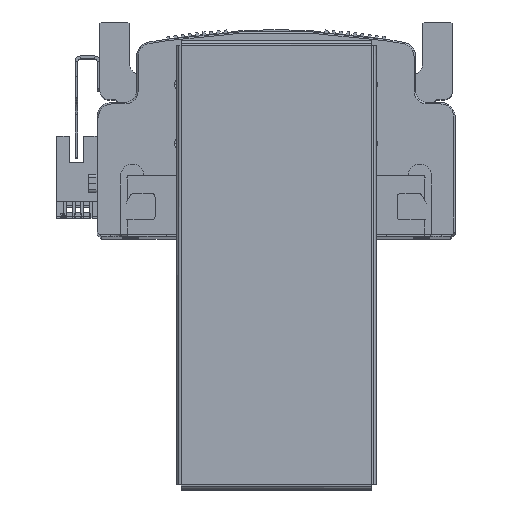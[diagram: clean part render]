
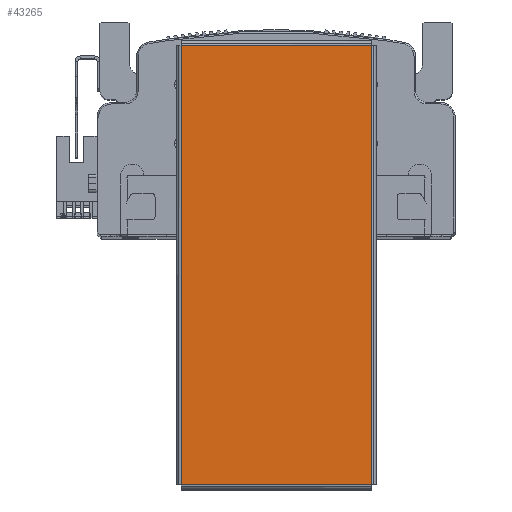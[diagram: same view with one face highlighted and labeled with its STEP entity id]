
A CAD part, top view. The second image highlights one B-rep face of the part: STEP entity #43265.
In plain terms, the highlighted planar face has unit normal (0, 0, 1) as drawn and (0, 0, -1) by its records, which use the part's own axes.
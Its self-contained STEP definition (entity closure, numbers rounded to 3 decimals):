
#10471 = LINE ( 'NONE', #75384, #10487 ) ;
#10487 = VECTOR ( 'NONE', #75417, 1000. ) ;
#10561 = LINE ( 'NONE', #75590, #10621 ) ;
#10621 = VECTOR ( 'NONE', #75624, 1000. ) ;
#11942 = VECTOR ( 'NONE', #75287, 1000. ) ;
#11958 = LINE ( 'NONE', #75367, #11942 ) ;
#11978 = LINE ( 'NONE', #75311, #11992 ) ;
#11992 = VECTOR ( 'NONE', #75313, 1000. ) ;
#17429 = VERTEX_POINT ( 'NONE', #58677 ) ;
#17460 = VERTEX_POINT ( 'NONE', #58723 ) ;
#17485 = VERTEX_POINT ( 'NONE', #58783 ) ;
#17493 = VERTEX_POINT ( 'NONE', #58750 ) ;
#32809 = EDGE_CURVE ( 'NONE', #17493, #17485, #11978, .T. ) ;
#32814 = EDGE_CURVE ( 'NONE', #17460, #17429, #11958, .T. ) ;
#32828 = EDGE_CURVE ( 'NONE', #17429, #17493, #10471, .T. ) ;
#32860 = EDGE_CURVE ( 'NONE', #17485, #17460, #10561, .T. ) ;
#38094 = EDGE_LOOP ( 'NONE', ( #77107, #77118, #77151, #77133 ) ) ;
#43265 = ADVANCED_FACE ( 'NONE', ( #55668 ), #66088, .F. ) ;
#55668 = FACE_OUTER_BOUND ( 'NONE', #38094, .T. ) ;
#56400 = AXIS2_PLACEMENT_3D ( 'NONE', #66067, #66089, #66063 ) ;
#58677 = CARTESIAN_POINT ( 'NONE',  ( -74.763, -32.363, -1. ) ) ;
#58723 = CARTESIAN_POINT ( 'NONE',  ( 74.763, -32.363, -1. ) ) ;
#58750 = CARTESIAN_POINT ( 'NONE',  ( -74.763, 32.363, -1. ) ) ;
#58783 = CARTESIAN_POINT ( 'NONE',  ( 74.763, 32.363, -1. ) ) ;
#66063 = DIRECTION ( 'NONE',  ( 1., 0., 0. ) ) ;
#66067 = CARTESIAN_POINT ( 'NONE',  ( 0., 0., -1. ) ) ;
#66088 = PLANE ( 'NONE',  #56400 ) ;
#66089 = DIRECTION ( 'NONE',  ( 0., 0., 1. ) ) ;
#75287 = DIRECTION ( 'NONE',  ( -1., 0., 0. ) ) ;
#75311 = CARTESIAN_POINT ( 'NONE',  ( -74.793, 32.363, -1. ) ) ;
#75313 = DIRECTION ( 'NONE',  ( 1., 0., 0. ) ) ;
#75367 = CARTESIAN_POINT ( 'NONE',  ( 74.793, -32.363, -1. ) ) ;
#75384 = CARTESIAN_POINT ( 'NONE',  ( -74.763, -32.393, -1. ) ) ;
#75417 = DIRECTION ( 'NONE',  ( 0., 1., 0. ) ) ;
#75590 = CARTESIAN_POINT ( 'NONE',  ( 74.763, 32.393, -1. ) ) ;
#75624 = DIRECTION ( 'NONE',  ( 0., -1., 0. ) ) ;
#77107 = ORIENTED_EDGE ( 'NONE', *, *, #32860, .T. ) ;
#77118 = ORIENTED_EDGE ( 'NONE', *, *, #32814, .T. ) ;
#77133 = ORIENTED_EDGE ( 'NONE', *, *, #32809, .T. ) ;
#77151 = ORIENTED_EDGE ( 'NONE', *, *, #32828, .T. ) ;
